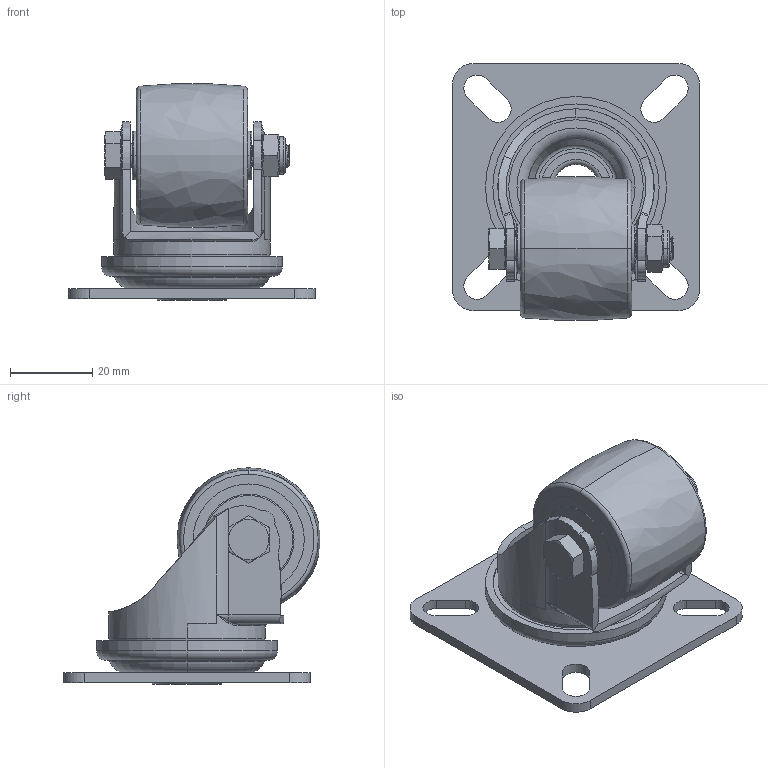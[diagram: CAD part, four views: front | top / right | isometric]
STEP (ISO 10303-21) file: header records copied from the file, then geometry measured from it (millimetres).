
FILE_DESCRIPTION((''),'2;1');
FILE_NAME('ASM0001_ASM','2023-06-13T16:59:19',('win11'),(''),'CREO PARAMETRIC BY PTC INC, 2018050','CREO PARAMETRIC BY PTC INC, 2018050','');
FILE_SCHEMA(('CONFIG_CONTROL_DESIGN'));
Length unit declared in the file: millimetre
Products named in the file (8): 321429-11; 500745; 500745-01; 500746; 500073_M6_40; 500158_M6; 331053_ASM; ASM0001_ASM
Assembly tree (8 placements, depth 3):
  ASM0001_ASM
    321429-11
    331053_ASM
      500745
      500745-01
      500746  x2
      500073_M6_40
      500158_M6
Bounding box: 60 x 62.43 x 52.6 mm (x, y, z)
Volume: 47068 mm3; surface area: 30325.2 mm2
Topology: 7 solids, 8 shells, 296 faces, 706 edges, 442 vertices
Faces by surface type: cylinder 110, plane 62, bspline 48, torus 46, cone 30
Entity records: 12978 total; most frequent: CARTESIAN_POINT 6653, ORIENTED_EDGE 1316, DIRECTION 1237, EDGE_CURVE 658, AXIS2_PLACEMENT_3D 511, VERTEX_POINT 414, EDGE_LOOP 310, FACE_OUTER_BOUND 272
